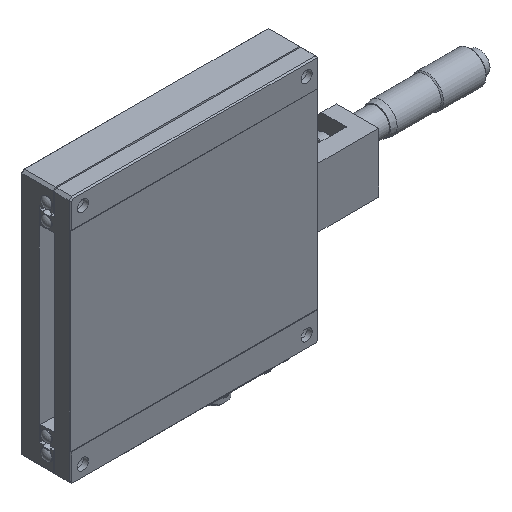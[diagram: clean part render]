
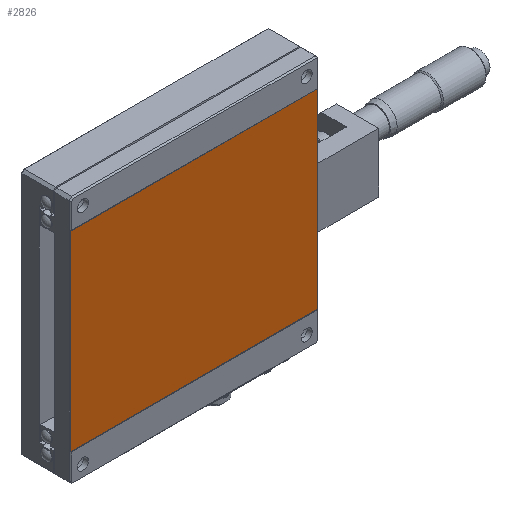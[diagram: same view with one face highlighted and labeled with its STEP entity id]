
A CAD part, isometric view. The second image highlights one B-rep face of the part: STEP entity #2826.
In plain terms, the highlighted planar face has unit normal (0, -1, 0).
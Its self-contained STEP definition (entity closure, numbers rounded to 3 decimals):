
#513=ORIENTED_EDGE('',*,*,#1089,.T.);
#514=ORIENTED_EDGE('',*,*,#1128,.T.);
#515=ORIENTED_EDGE('',*,*,#1093,.T.);
#516=ORIENTED_EDGE('',*,*,#1127,.F.);
#1089=EDGE_CURVE('',#1433,#1434,#1694,.F.);
#1093=EDGE_CURVE('',#1436,#1435,#1698,.F.);
#1127=EDGE_CURVE('',#1433,#1435,#1716,.T.);
#1128=EDGE_CURVE('',#1434,#1436,#1717,.T.);
#1433=VERTEX_POINT('',#4501);
#1434=VERTEX_POINT('',#4505);
#1435=VERTEX_POINT('',#4513);
#1436=VERTEX_POINT('',#4515);
#1694=LINE('',#4506,#1896);
#1698=LINE('',#4514,#1900);
#1716=LINE('',#4589,#1918);
#1717=LINE('',#4591,#1919);
#1896=VECTOR('',#3528,1000.);
#1900=VECTOR('',#3538,1000.);
#1918=VECTOR('',#3644,1000.);
#1919=VECTOR('',#3647,1000.);
#2092=EDGE_LOOP('',(#513,#514,#515,#516));
#2408=FACE_BOUND('',#2092,.T.);
#2695=PLANE('',#3102);
#2826=ADVANCED_FACE('',(#2408),#2695,.F.);
#3102=AXIS2_PLACEMENT_3D('',#4590,#3645,#3646);
#3528=DIRECTION('',(0.,0.,-1.));
#3538=DIRECTION('',(0.,0.,1.));
#3644=DIRECTION('',(-1.,0.,0.));
#3645=DIRECTION('',(0.,1.,0.));
#3646=DIRECTION('',(0.,0.,1.));
#3647=DIRECTION('',(-1.,0.,0.));
#4501=CARTESIAN_POINT('',(49.8,0.3,-38.5));
#4505=CARTESIAN_POINT('',(49.8,0.3,38.5));
#4506=CARTESIAN_POINT('',(49.8,0.3,49.));
#4513=CARTESIAN_POINT('',(-49.8,0.3,-38.5));
#4514=CARTESIAN_POINT('',(-49.8,0.3,-49.));
#4515=CARTESIAN_POINT('',(-49.8,0.3,38.5));
#4589=CARTESIAN_POINT('',(50.,0.3,-38.5));
#4590=CARTESIAN_POINT('',(50.,0.3,38.5));
#4591=CARTESIAN_POINT('',(50.,0.3,38.5));
